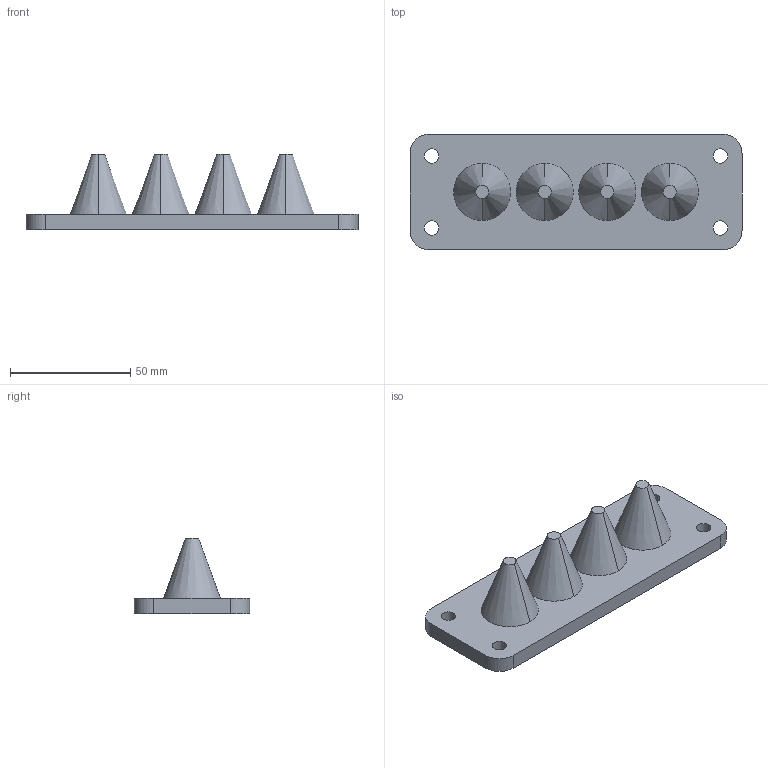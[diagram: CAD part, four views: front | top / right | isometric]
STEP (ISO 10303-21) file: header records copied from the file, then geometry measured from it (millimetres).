
FILE_DESCRIPTION (( 'STEP AP203' ), '1' );
FILE_NAME ('100216.STEP', '2012-12-11T05:35:51', ( 'Joni' ), ( 'Hewlett-Packard Company' ), 'SwSTEP 2.0', 'SolidWorks 2012', '' );
FILE_SCHEMA (( 'CONFIG_CONTROL_DESIGN' ));
Length unit declared in the file: millimetre
Products named in the file (1): 100216
Bounding box: 138 x 48 x 31.57 mm (x, y, z)
Volume: 60927.1 mm3; surface area: 18948.2 mm2
Topology: 1 solids, 1 shells, 30 faces, 72 edges, 48 vertices
Faces by surface type: cylinder 12, plane 10, cone 8
Entity records: 989 total; most frequent: DIRECTION 174, CARTESIAN_POINT 151, ORIENTED_EDGE 144, EDGE_CURVE 72, AXIS2_PLACEMENT_3D 71, VERTEX_POINT 48, EDGE_LOOP 42, CIRCLE 40
